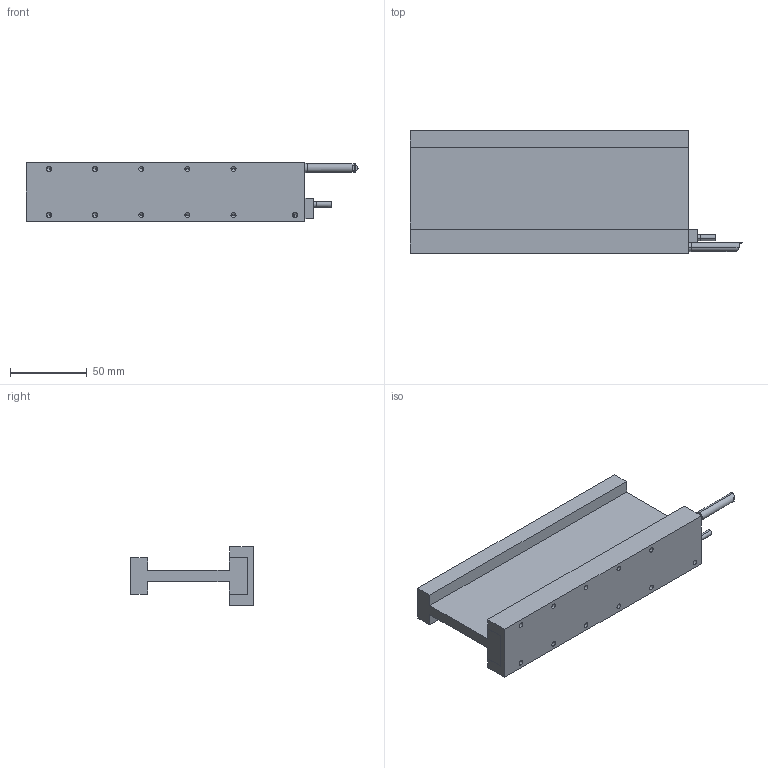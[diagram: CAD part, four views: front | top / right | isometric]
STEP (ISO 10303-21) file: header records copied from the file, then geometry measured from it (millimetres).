
FILE_DESCRIPTION (( 'STEP AP214' ), '1' );
FILE_NAME ('DX50F-C3.step', '2022-05-06T04:04:02', ( '' ), ( '' ), 'SwSTEP 2.0', 'SolidWorks 2020', '' );
FILE_SCHEMA (( 'AUTOMOTIVE_DESIGN' ));
Length unit declared in the file: millimetre
Products named in the file (1): DX50F-C3
Bounding box: 216 x 80 x 38.2 mm (x, y, z)
Volume: 224213.9 mm3; surface area: 72077.2 mm2
Topology: 7 solids, 7 shells, 190 faces, 444 edges, 261 vertices
Faces by surface type: plane 86, cylinder 58, cone 38, torus 8
Entity records: 7409 total; most frequent: CARTESIAN_POINT 961, DIRECTION 928, ORIENTED_EDGE 828, EDGE_CURVE 414, AXIS2_PLACEMENT_3D 336, VERTEX_POINT 261, VECTOR 256, LINE 256
